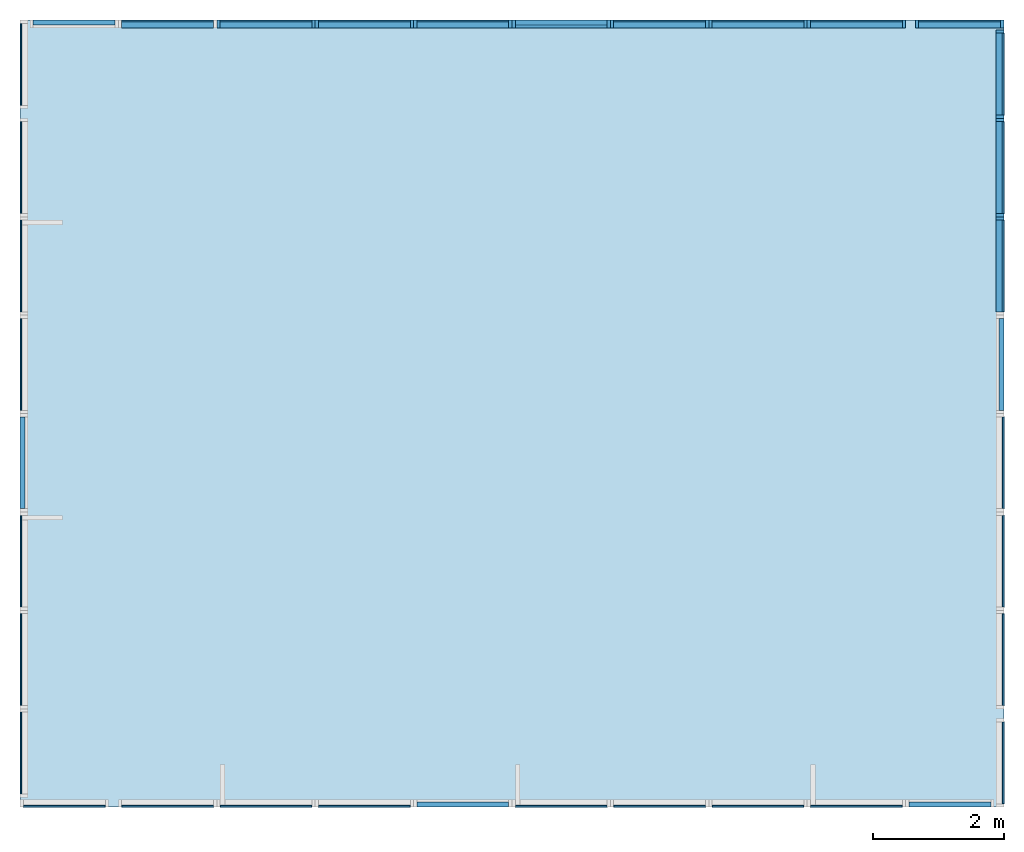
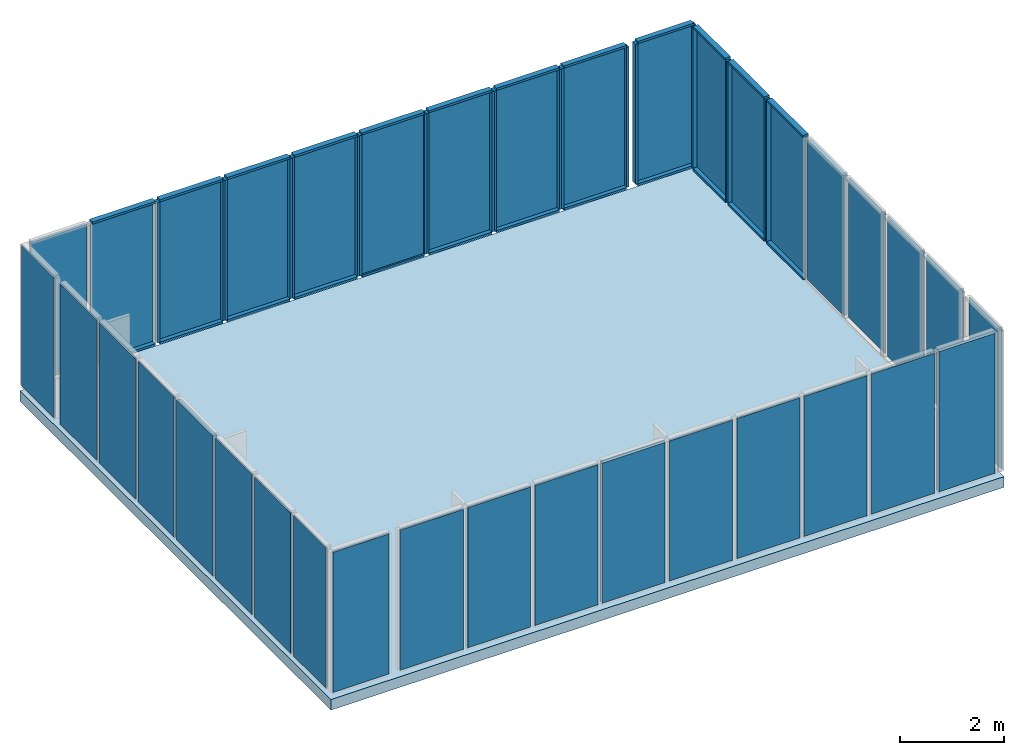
# One storey, part 2 of 2: 45 members, 36 plates, 1 slab.
"""IFC4 building model written with IfcOpenShell, lengths in metres."""

from ifc_helpers import new_model, si_unit, frame, origin_with_axes, place, context, subcontext, project, spatial, indexed_curve, outline, extrude, material, element, save


model = new_model("IFC4")

# Units and contexts
model_context = context("Model", 3, precision=1e-05, world=origin_with_axes())
body_context = subcontext(model_context, "Body", "Model", "MODEL_VIEW")
ifc_project = project(units=[si_unit("AREAUNIT", "SQUARE_METRE"), si_unit("VOLUMEUNIT", "CUBIC_METRE"), si_unit("LENGTHUNIT", "METRE")], contexts=[model_context])

# Site, building, storey
site = spatial("IfcSite", under=ifc_project, Name="Synthetic Site")
building = spatial("IfcBuilding", under=site, Name="Complex Tower")
storey_placement = place(None, frame((0.0, 0.0, 34.2), z_axis=(0.0, 0.0, 1.0), x_axis=(1.0, 0.0, 0.0)))
storey = spatial("IfcBuildingStorey", under=building, at=storey_placement, Name="L10", Elevation=34.2)

# Members
ifc_material_1 = material(Name="Aluminium")
member_placement = place(storey_placement, frame((21.0, 11.950000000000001, 0.14999999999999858), z_axis=(0.0, 0.0, 1.0), x_axis=(6.123233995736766e-17, 1.0, 0.0)))
element("IfcMember", 1, at=member_placement, inside=storey, material=ifc_material_1, Name="CT-L10-E-006-MR", PredefinedType="MULLION", context=body_context, shape_type="SweptSolid", body=[
    extrude(outline(indexed_curve([(0.0, 0.0), (0.0, 0.12), (0.05, 0.12), (0.05, 0.0), (0.0, 0.0)], self_intersect=False)), origin_with_axes(), (0.0, 0.0, 1.0), 3.3000000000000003),
])
for number, where, z_axis, x_axis, name in (
    (2, (21.0, 10.55, 0.10000000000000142), (0.0, 0.0, 1.0), (6.123233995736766e-17, 1.0, 0.0), "CT-L10-E-006-FB"),
    (3, (21.0, 10.55, 3.4499999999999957), (0.0, 0.0, 1.0), (6.123233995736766e-17, 1.0, 0.0), "CT-L10-E-006-FT"),
):
    element("IfcMember", number, at=place(storey_placement, frame(where, z_axis=z_axis, x_axis=x_axis)), inside=storey, material=ifc_material_1, Name=name, PredefinedType="MULLION", context=body_context, shape_type="SweptSolid", body=[
        extrude(outline(indexed_curve([(0.0, 0.0), (0.0, 0.12), (1.4, 0.12), (1.4, 0.0), (0.0, 0.0)], self_intersect=False)), origin_with_axes(), (0.0, 0.0, 1.0), 0.05),
    ])
for number, where, z_axis, x_axis, name in (
    (4, (21.0, 12.0, 0.14999999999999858), (0.0, 0.0, 1.0), (6.123233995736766e-17, 1.0, 0.0), "CT-L10-E-007-ML"),
    (5, (21.0, 13.450000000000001, 0.14999999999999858), (0.0, 0.0, 1.0), (6.123233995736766e-17, 1.0, 0.0), "CT-L10-E-007-MR"),
):
    element("IfcMember", number, at=place(storey_placement, frame(where, z_axis=z_axis, x_axis=x_axis)), inside=storey, material=ifc_material_1, Name=name, PredefinedType="MULLION", context=body_context, shape_type="SweptSolid", body=[
        extrude(outline(indexed_curve([(0.0, 0.0), (0.0, 0.12), (0.05, 0.12), (0.05, 0.0), (0.0, 0.0)], self_intersect=False)), origin_with_axes(), (0.0, 0.0, 1.0), 3.3000000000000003),
    ])
for number, where, z_axis, x_axis, name in (
    (6, (21.0, 12.05, 0.10000000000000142), (0.0, 0.0, 1.0), (6.123233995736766e-17, 1.0, 0.0), "CT-L10-E-007-FB"),
    (7, (21.0, 12.05, 3.4499999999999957), (0.0, 0.0, 1.0), (6.123233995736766e-17, 1.0, 0.0), "CT-L10-E-007-FT"),
):
    element("IfcMember", number, at=place(storey_placement, frame(where, z_axis=z_axis, x_axis=x_axis)), inside=storey, material=ifc_material_1, Name=name, PredefinedType="MULLION", context=body_context, shape_type="SweptSolid", body=[
        extrude(outline(indexed_curve([(0.0, 0.0), (0.0, 0.12), (1.4, 0.12), (1.4, 0.0), (0.0, 0.0)], self_intersect=False)), origin_with_axes(), (0.0, 0.0, 1.0), 0.05),
    ])
for number, where, z_axis, x_axis, name in (
    (8, (21.0, 13.5, 0.14999999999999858), (0.0, 0.0, 1.0), (6.123233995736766e-17, 1.0, 0.0), "CT-L10-E-008-ML"),
    (9, (21.0, 14.8, 0.14999999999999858), (0.0, 0.0, 1.0), (6.123233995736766e-17, 1.0, 0.0), "CT-L10-E-008-MR"),
):
    element("IfcMember", number, at=place(storey_placement, frame(where, z_axis=z_axis, x_axis=x_axis)), inside=storey, material=ifc_material_1, Name=name, PredefinedType="MULLION", context=body_context, shape_type="SweptSolid", body=[
        extrude(outline(indexed_curve([(0.0, 0.0), (0.0, 0.12), (0.05, 0.12), (0.05, 0.0), (0.0, 0.0)], self_intersect=False)), origin_with_axes(), (0.0, 0.0, 1.0), 3.3000000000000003),
    ])
for number, where, z_axis, x_axis, name in (
    (10, (21.0, 13.55, 0.10000000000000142), (0.0, 0.0, 1.0), (6.123233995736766e-17, 1.0, 0.0), "CT-L10-E-008-FB"),
    (11, (21.0, 13.55, 3.4499999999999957), (0.0, 0.0, 1.0), (6.123233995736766e-17, 1.0, 0.0), "CT-L10-E-008-FT"),
):
    element("IfcMember", number, at=place(storey_placement, frame(where, z_axis=z_axis, x_axis=x_axis)), inside=storey, material=ifc_material_1, Name=name, PredefinedType="MULLION", context=body_context, shape_type="SweptSolid", body=[
        extrude(outline(indexed_curve([(0.0, 0.0), (0.0, 0.12), (1.25, 0.12), (1.25, 0.0), (0.0, 0.0)], self_intersect=False)), origin_with_axes(), (0.0, 0.0, 1.0), 0.05),
    ])
for number, where, z_axis, x_axis, name in (
    (12, (21.0, 15.0, 0.14999999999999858), (0.0, 0.0, 1.0), (-1.0, 1.2246467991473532e-16, 0.0), "CT-L10-N-001-ML"),
    (13, (19.7, 15.0, 0.14999999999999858), (0.0, 0.0, 1.0), (-1.0, 1.2246467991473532e-16, 0.0), "CT-L10-N-001-MR"),
):
    element("IfcMember", number, at=place(storey_placement, frame(where, z_axis=z_axis, x_axis=x_axis)), inside=storey, material=ifc_material_1, Name=name, PredefinedType="MULLION", context=body_context, shape_type="SweptSolid", body=[
        extrude(outline(indexed_curve([(0.0, 0.0), (0.0, 0.12), (0.05, 0.12), (0.05, 0.0), (0.0, 0.0)], self_intersect=False)), origin_with_axes(), (0.0, 0.0, 1.0), 3.3000000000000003),
    ])
for number, where, z_axis, x_axis, name in (
    (14, (20.95, 15.0, 0.10000000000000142), (0.0, 0.0, 1.0), (-1.0, 1.2246467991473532e-16, 0.0), "CT-L10-N-001-FB"),
    (15, (20.95, 15.0, 3.4499999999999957), (0.0, 0.0, 1.0), (-1.0, 1.2246467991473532e-16, 0.0), "CT-L10-N-001-FT"),
):
    element("IfcMember", number, at=place(storey_placement, frame(where, z_axis=z_axis, x_axis=x_axis)), inside=storey, material=ifc_material_1, Name=name, PredefinedType="MULLION", context=body_context, shape_type="SweptSolid", body=[
        extrude(outline(indexed_curve([(0.0, 0.0), (0.0, 0.12), (1.25, 0.12), (1.25, 0.0), (0.0, 0.0)], self_intersect=False)), origin_with_axes(), (0.0, 0.0, 1.0), 0.05),
    ])
for number, where, z_axis, x_axis, name in (
    (16, (19.5, 15.0, 0.14999999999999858), (0.0, 0.0, 1.0), (-1.0, 1.2246467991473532e-16, 0.0), "CT-L10-N-002-ML"),
    (17, (18.05, 15.0, 0.14999999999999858), (0.0, 0.0, 1.0), (-1.0, 1.2246467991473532e-16, 0.0), "CT-L10-N-002-MR"),
):
    element("IfcMember", number, at=place(storey_placement, frame(where, z_axis=z_axis, x_axis=x_axis)), inside=storey, material=ifc_material_1, Name=name, PredefinedType="MULLION", context=body_context, shape_type="SweptSolid", body=[
        extrude(outline(indexed_curve([(0.0, 0.0), (0.0, 0.12), (0.05, 0.12), (0.05, 0.0), (0.0, 0.0)], self_intersect=False)), origin_with_axes(), (0.0, 0.0, 1.0), 3.3000000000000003),
    ])
for number, where, z_axis, x_axis, name in (
    (18, (19.45, 15.0, 0.10000000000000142), (0.0, 0.0, 1.0), (-1.0, 1.2246467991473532e-16, 0.0), "CT-L10-N-002-FB"),
    (19, (19.45, 15.0, 3.4499999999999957), (0.0, 0.0, 1.0), (-1.0, 1.2246467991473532e-16, 0.0), "CT-L10-N-002-FT"),
):
    element("IfcMember", number, at=place(storey_placement, frame(where, z_axis=z_axis, x_axis=x_axis)), inside=storey, material=ifc_material_1, Name=name, PredefinedType="MULLION", context=body_context, shape_type="SweptSolid", body=[
        extrude(outline(indexed_curve([(0.0, 0.0), (0.0, 0.12), (1.4, 0.12), (1.4, 0.0), (0.0, 0.0)], self_intersect=False)), origin_with_axes(), (0.0, 0.0, 1.0), 0.05),
    ])
for number, where, z_axis, x_axis, name in (
    (20, (18.0, 15.0, 0.14999999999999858), (0.0, 0.0, 1.0), (-1.0, 1.2246467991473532e-16, 0.0), "CT-L10-N-003-ML"),
    (21, (16.55, 15.0, 0.14999999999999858), (0.0, 0.0, 1.0), (-1.0, 1.2246467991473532e-16, 0.0), "CT-L10-N-003-MR"),
):
    element("IfcMember", number, at=place(storey_placement, frame(where, z_axis=z_axis, x_axis=x_axis)), inside=storey, material=ifc_material_1, Name=name, PredefinedType="MULLION", context=body_context, shape_type="SweptSolid", body=[
        extrude(outline(indexed_curve([(0.0, 0.0), (0.0, 0.12), (0.05, 0.12), (0.05, 0.0), (0.0, 0.0)], self_intersect=False)), origin_with_axes(), (0.0, 0.0, 1.0), 3.3000000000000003),
    ])
for number, where, z_axis, x_axis, name in (
    (22, (17.95, 15.0, 0.10000000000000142), (0.0, 0.0, 1.0), (-1.0, 1.2246467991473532e-16, 0.0), "CT-L10-N-003-FB"),
    (23, (17.95, 15.0, 3.4499999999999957), (0.0, 0.0, 1.0), (-1.0, 1.2246467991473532e-16, 0.0), "CT-L10-N-003-FT"),
):
    element("IfcMember", number, at=place(storey_placement, frame(where, z_axis=z_axis, x_axis=x_axis)), inside=storey, material=ifc_material_1, Name=name, PredefinedType="MULLION", context=body_context, shape_type="SweptSolid", body=[
        extrude(outline(indexed_curve([(0.0, 0.0), (0.0, 0.12), (1.4, 0.12), (1.4, 0.0), (0.0, 0.0)], self_intersect=False)), origin_with_axes(), (0.0, 0.0, 1.0), 0.05),
    ])
for number, where, z_axis, x_axis, name in (
    (24, (16.5, 15.0, 0.14999999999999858), (0.0, 0.0, 1.0), (-1.0, 1.2246467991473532e-16, 0.0), "CT-L10-N-004-ML"),
    (25, (15.049999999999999, 15.0, 0.14999999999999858), (0.0, 0.0, 1.0), (-1.0, 1.2246467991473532e-16, 0.0), "CT-L10-N-004-MR"),
):
    element("IfcMember", number, at=place(storey_placement, frame(where, z_axis=z_axis, x_axis=x_axis)), inside=storey, material=ifc_material_1, Name=name, PredefinedType="MULLION", context=body_context, shape_type="SweptSolid", body=[
        extrude(outline(indexed_curve([(0.0, 0.0), (0.0, 0.12), (0.05, 0.12), (0.05, 0.0), (0.0, 0.0)], self_intersect=False)), origin_with_axes(), (0.0, 0.0, 1.0), 3.3000000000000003),
    ])
for number, where, z_axis, x_axis, name in (
    (26, (16.45, 15.0, 0.10000000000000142), (0.0, 0.0, 1.0), (-1.0, 1.2246467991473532e-16, 0.0), "CT-L10-N-004-FB"),
    (27, (16.45, 15.0, 3.4499999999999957), (0.0, 0.0, 1.0), (-1.0, 1.2246467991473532e-16, 0.0), "CT-L10-N-004-FT"),
):
    element("IfcMember", number, at=place(storey_placement, frame(where, z_axis=z_axis, x_axis=x_axis)), inside=storey, material=ifc_material_1, Name=name, PredefinedType="MULLION", context=body_context, shape_type="SweptSolid", body=[
        extrude(outline(indexed_curve([(0.0, 0.0), (0.0, 0.12), (1.4, 0.12), (1.4, 0.0), (0.0, 0.0)], self_intersect=False)), origin_with_axes(), (0.0, 0.0, 1.0), 0.05),
    ])
for number, where, z_axis, x_axis, name in (
    (28, (15.0, 15.0, 0.14999999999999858), (0.0, 0.0, 1.0), (-1.0, 1.2246467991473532e-16, 0.0), "CT-L10-N-005-ML"),
    (29, (13.549999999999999, 15.0, 0.14999999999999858), (0.0, 0.0, 1.0), (-1.0, 1.2246467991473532e-16, 0.0), "CT-L10-N-005-MR"),
):
    element("IfcMember", number, at=place(storey_placement, frame(where, z_axis=z_axis, x_axis=x_axis)), inside=storey, material=ifc_material_1, Name=name, PredefinedType="MULLION", context=body_context, shape_type="SweptSolid", body=[
        extrude(outline(indexed_curve([(0.0, 0.0), (0.0, 0.12), (0.05, 0.12), (0.05, 0.0), (0.0, 0.0)], self_intersect=False)), origin_with_axes(), (0.0, 0.0, 1.0), 3.3000000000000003),
    ])
for number, where, z_axis, x_axis, name in (
    (30, (14.95, 15.0, 0.10000000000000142), (0.0, 0.0, 1.0), (-1.0, 1.2246467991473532e-16, 0.0), "CT-L10-N-005-FB"),
    (31, (14.95, 15.0, 3.4499999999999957), (0.0, 0.0, 1.0), (-1.0, 1.2246467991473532e-16, 0.0), "CT-L10-N-005-FT"),
):
    element("IfcMember", number, at=place(storey_placement, frame(where, z_axis=z_axis, x_axis=x_axis)), inside=storey, material=ifc_material_1, Name=name, PredefinedType="MULLION", context=body_context, shape_type="SweptSolid", body=[
        extrude(outline(indexed_curve([(0.0, 0.0), (0.0, 0.12), (1.4, 0.12), (1.4, 0.0), (0.0, 0.0)], self_intersect=False)), origin_with_axes(), (0.0, 0.0, 1.0), 0.05),
    ])
for number, where, z_axis, x_axis, name in (
    (32, (13.5, 15.000000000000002, 0.14999999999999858), (0.0, 0.0, 1.0), (-1.0, 1.2246467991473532e-16, 0.0), "CT-L10-N-006-ML"),
    (33, (12.049999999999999, 15.000000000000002, 0.14999999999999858), (0.0, 0.0, 1.0), (-1.0, 1.2246467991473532e-16, 0.0), "CT-L10-N-006-MR"),
):
    element("IfcMember", number, at=place(storey_placement, frame(where, z_axis=z_axis, x_axis=x_axis)), inside=storey, material=ifc_material_1, Name=name, PredefinedType="MULLION", context=body_context, shape_type="SweptSolid", body=[
        extrude(outline(indexed_curve([(0.0, 0.0), (0.0, 0.12), (0.05, 0.12), (0.05, 0.0), (0.0, 0.0)], self_intersect=False)), origin_with_axes(), (0.0, 0.0, 1.0), 3.3000000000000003),
    ])
for number, where, z_axis, x_axis, name in (
    (34, (13.45, 15.000000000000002, 0.10000000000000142), (0.0, 0.0, 1.0), (-1.0, 1.2246467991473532e-16, 0.0), "CT-L10-N-006-FB"),
    (35, (13.45, 15.000000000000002, 3.4499999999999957), (0.0, 0.0, 1.0), (-1.0, 1.2246467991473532e-16, 0.0), "CT-L10-N-006-FT"),
):
    element("IfcMember", number, at=place(storey_placement, frame(where, z_axis=z_axis, x_axis=x_axis)), inside=storey, material=ifc_material_1, Name=name, PredefinedType="MULLION", context=body_context, shape_type="SweptSolid", body=[
        extrude(outline(indexed_curve([(0.0, 0.0), (0.0, 0.12), (1.4, 0.12), (1.4, 0.0), (0.0, 0.0)], self_intersect=False)), origin_with_axes(), (0.0, 0.0, 1.0), 0.05),
    ])
for number, where, z_axis, x_axis, name in (
    (36, (12.0, 15.000000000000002, 0.14999999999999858), (0.0, 0.0, 1.0), (-1.0, 1.2246467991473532e-16, 0.0), "CT-L10-N-007-ML"),
    (37, (10.549999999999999, 15.000000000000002, 0.14999999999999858), (0.0, 0.0, 1.0), (-1.0, 1.2246467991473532e-16, 0.0), "CT-L10-N-007-MR"),
):
    element("IfcMember", number, at=place(storey_placement, frame(where, z_axis=z_axis, x_axis=x_axis)), inside=storey, material=ifc_material_1, Name=name, PredefinedType="MULLION", context=body_context, shape_type="SweptSolid", body=[
        extrude(outline(indexed_curve([(0.0, 0.0), (0.0, 0.12), (0.05, 0.12), (0.05, 0.0), (0.0, 0.0)], self_intersect=False)), origin_with_axes(), (0.0, 0.0, 1.0), 3.3000000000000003),
    ])
for number, where, z_axis, x_axis, name in (
    (38, (11.95, 15.000000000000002, 0.10000000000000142), (0.0, 0.0, 1.0), (-1.0, 1.2246467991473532e-16, 0.0), "CT-L10-N-007-FB"),
    (39, (11.95, 15.000000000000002, 3.4499999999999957), (0.0, 0.0, 1.0), (-1.0, 1.2246467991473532e-16, 0.0), "CT-L10-N-007-FT"),
):
    element("IfcMember", number, at=place(storey_placement, frame(where, z_axis=z_axis, x_axis=x_axis)), inside=storey, material=ifc_material_1, Name=name, PredefinedType="MULLION", context=body_context, shape_type="SweptSolid", body=[
        extrude(outline(indexed_curve([(0.0, 0.0), (0.0, 0.12), (1.4, 0.12), (1.4, 0.0), (0.0, 0.0)], self_intersect=False)), origin_with_axes(), (0.0, 0.0, 1.0), 0.05),
    ])
for number, where, z_axis, x_axis, name in (
    (40, (10.5, 15.000000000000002, 0.14999999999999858), (0.0, 0.0, 1.0), (-1.0, 1.2246467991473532e-16, 0.0), "CT-L10-N-008-ML"),
    (41, (9.049999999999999, 15.000000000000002, 0.14999999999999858), (0.0, 0.0, 1.0), (-1.0, 1.2246467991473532e-16, 0.0), "CT-L10-N-008-MR"),
):
    element("IfcMember", number, at=place(storey_placement, frame(where, z_axis=z_axis, x_axis=x_axis)), inside=storey, material=ifc_material_1, Name=name, PredefinedType="MULLION", context=body_context, shape_type="SweptSolid", body=[
        extrude(outline(indexed_curve([(0.0, 0.0), (0.0, 0.12), (0.05, 0.12), (0.05, 0.0), (0.0, 0.0)], self_intersect=False)), origin_with_axes(), (0.0, 0.0, 1.0), 3.3000000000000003),
    ])
for number, where, z_axis, x_axis, name in (
    (42, (10.45, 15.000000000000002, 0.10000000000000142), (0.0, 0.0, 1.0), (-1.0, 1.2246467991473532e-16, 0.0), "CT-L10-N-008-FB"),
    (43, (10.45, 15.000000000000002, 3.4499999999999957), (0.0, 0.0, 1.0), (-1.0, 1.2246467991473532e-16, 0.0), "CT-L10-N-008-FT"),
    (44, (8.95, 15.000000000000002, 0.10000000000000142), (0.0, 0.0, 1.0), (-1.0, 1.2246467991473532e-16, 0.0), "CT-L10-N-009-FB"),
    (45, (8.95, 15.000000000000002, 3.4499999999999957), (0.0, 0.0, 1.0), (-1.0, 1.2246467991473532e-16, 0.0), "CT-L10-N-009-FT"),
):
    element("IfcMember", number, at=place(storey_placement, frame(where, z_axis=z_axis, x_axis=x_axis)), inside=storey, material=ifc_material_1, Name=name, PredefinedType="MULLION", context=body_context, shape_type="SweptSolid", body=[
        extrude(outline(indexed_curve([(0.0, 0.0), (0.0, 0.12), (1.4, 0.12), (1.4, 0.0), (0.0, 0.0)], self_intersect=False)), origin_with_axes(), (0.0, 0.0, 1.0), 0.05),
    ])

# Plates
ifc_material_2 = material(Name="Glass")
plate_1_placement = place(storey_placement, frame((6.05, 3.0, 0.14999999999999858), z_axis=(0.0, 0.0, 1.0), x_axis=(1.0, 0.0, 0.0)))
element("IfcPlate", 46, at=plate_1_placement, inside=storey, material=ifc_material_2, Name="CT-L10-S-001", PredefinedType="CURTAIN_PANEL", context=body_context, shape_type="SweptSolid", body=[
    extrude(outline(indexed_curve([(0.0, 0.0), (0.0, 0.028), (1.25, 0.028), (1.25, 0.0), (0.0, 0.0)], self_intersect=False)), origin_with_axes(), (0.0, 0.0, 1.0), 3.3000000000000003),
])
for number, where, z_axis, x_axis, name in (
    (47, (7.55, 3.0, 0.14999999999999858), (0.0, 0.0, 1.0), (1.0, 0.0, 0.0), "CT-L10-S-002"),
    (48, (9.05, 3.0, 0.14999999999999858), (0.0, 0.0, 1.0), (1.0, 0.0, 0.0), "CT-L10-S-003"),
    (49, (10.55, 3.0, 0.14999999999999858), (0.0, 0.0, 1.0), (1.0, 0.0, 0.0), "CT-L10-S-004"),
):
    element("IfcPlate", number, at=place(storey_placement, frame(where, z_axis=z_axis, x_axis=x_axis)), inside=storey, material=ifc_material_2, Name=name, PredefinedType="CURTAIN_PANEL", context=body_context, shape_type="SweptSolid", body=[
        extrude(outline(indexed_curve([(0.0, 0.0), (0.0, 0.028), (1.4, 0.028), (1.4, 0.0), (0.0, 0.0)], self_intersect=False)), origin_with_axes(), (0.0, 0.0, 1.0), 3.3000000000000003),
    ])
plate_2_placement = place(storey_placement, frame((12.05, 3.0, 0.14999999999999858), z_axis=(0.0, 0.0, 1.0), x_axis=(1.0, 0.0, 0.0)))
element("IfcPlate", 50, at=plate_2_placement, inside=storey, material=ifc_material_1, Name="CT-L10-S-005", PredefinedType="SHEET", context=body_context, shape_type="SweptSolid", body=[
    extrude(outline(indexed_curve([(0.0, 0.0), (0.0, 0.08), (1.4, 0.08), (1.4, 0.0), (0.0, 0.0)], self_intersect=False)), origin_with_axes(), (0.0, 0.0, 1.0), 3.3000000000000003),
])
for number, where, z_axis, x_axis, name in (
    (51, (13.55, 3.0, 0.14999999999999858), (0.0, 0.0, 1.0), (1.0, 0.0, 0.0), "CT-L10-S-006"),
    (52, (15.05, 3.0, 0.14999999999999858), (0.0, 0.0, 1.0), (1.0, 0.0, 0.0), "CT-L10-S-007"),
    (53, (16.55, 3.0, 0.14999999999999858), (0.0, 0.0, 1.0), (1.0, 0.0, 0.0), "CT-L10-S-008"),
    (54, (18.05, 3.0, 0.14999999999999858), (0.0, 0.0, 1.0), (1.0, 0.0, 0.0), "CT-L10-S-009"),
):
    element("IfcPlate", number, at=place(storey_placement, frame(where, z_axis=z_axis, x_axis=x_axis)), inside=storey, material=ifc_material_2, Name=name, PredefinedType="CURTAIN_PANEL", context=body_context, shape_type="SweptSolid", body=[
        extrude(outline(indexed_curve([(0.0, 0.0), (0.0, 0.028), (1.4, 0.028), (1.4, 0.0), (0.0, 0.0)], self_intersect=False)), origin_with_axes(), (0.0, 0.0, 1.0), 3.3000000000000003),
    ])
plate_3_placement = place(storey_placement, frame((19.55, 3.0, 0.14999999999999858), z_axis=(0.0, 0.0, 1.0), x_axis=(1.0, 0.0, 0.0)))
element("IfcPlate", 55, at=plate_3_placement, inside=storey, material=ifc_material_1, Name="CT-L10-S-010", PredefinedType="SHEET", context=body_context, shape_type="SweptSolid", body=[
    extrude(outline(indexed_curve([(0.0, 0.0), (0.0, 0.08), (1.25, 0.08), (1.25, 0.0), (0.0, 0.0)], self_intersect=False)), origin_with_axes(), (0.0, 0.0, 1.0), 3.3000000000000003),
])
plate_4_placement = place(storey_placement, frame((21.0, 3.05, 0.14999999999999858), z_axis=(0.0, 0.0, 1.0), x_axis=(6.123233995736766e-17, 1.0, 0.0)))
element("IfcPlate", 56, at=plate_4_placement, inside=storey, material=ifc_material_2, Name="CT-L10-E-001", PredefinedType="CURTAIN_PANEL", context=body_context, shape_type="SweptSolid", body=[
    extrude(outline(indexed_curve([(0.0, 0.0), (0.0, 0.028), (1.25, 0.028), (1.25, 0.0), (0.0, 0.0)], self_intersect=False)), origin_with_axes(), (0.0, 0.0, 1.0), 3.3000000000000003),
])
for number, where, z_axis, x_axis, name in (
    (57, (21.0, 4.55, 0.14999999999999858), (0.0, 0.0, 1.0), (6.123233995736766e-17, 1.0, 0.0), "CT-L10-E-002"),
    (58, (21.0, 6.05, 0.14999999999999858), (0.0, 0.0, 1.0), (6.123233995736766e-17, 1.0, 0.0), "CT-L10-E-003"),
    (59, (21.0, 7.55, 0.14999999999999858), (0.0, 0.0, 1.0), (6.123233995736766e-17, 1.0, 0.0), "CT-L10-E-004"),
):
    element("IfcPlate", number, at=place(storey_placement, frame(where, z_axis=z_axis, x_axis=x_axis)), inside=storey, material=ifc_material_2, Name=name, PredefinedType="CURTAIN_PANEL", context=body_context, shape_type="SweptSolid", body=[
        extrude(outline(indexed_curve([(0.0, 0.0), (0.0, 0.028), (1.4, 0.028), (1.4, 0.0), (0.0, 0.0)], self_intersect=False)), origin_with_axes(), (0.0, 0.0, 1.0), 3.3000000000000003),
    ])
plate_5_placement = place(storey_placement, frame((21.0, 9.05, 0.14999999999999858), z_axis=(0.0, 0.0, 1.0), x_axis=(6.123233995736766e-17, 1.0, 0.0)))
element("IfcPlate", 60, at=plate_5_placement, inside=storey, material=ifc_material_1, Name="CT-L10-E-005", PredefinedType="SHEET", context=body_context, shape_type="SweptSolid", body=[
    extrude(outline(indexed_curve([(0.0, 0.0), (0.0, 0.08), (1.4, 0.08), (1.4, 0.0), (0.0, 0.0)], self_intersect=False)), origin_with_axes(), (0.0, 0.0, 1.0), 3.3000000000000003),
])
for number, where, z_axis, x_axis, name in (
    (61, (21.0, 10.55, 0.14999999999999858), (0.0, 0.0, 1.0), (6.123233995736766e-17, 1.0, 0.0), "CT-L10-E-006"),
    (62, (21.0, 12.05, 0.14999999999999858), (0.0, 0.0, 1.0), (6.123233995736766e-17, 1.0, 0.0), "CT-L10-E-007"),
):
    element("IfcPlate", number, at=place(storey_placement, frame(where, z_axis=z_axis, x_axis=x_axis)), inside=storey, material=ifc_material_2, Name=name, PredefinedType="CURTAIN_PANEL", context=body_context, shape_type="SweptSolid", body=[
        extrude(outline(indexed_curve([(0.0, 0.0), (0.0, 0.028), (1.4, 0.028), (1.4, 0.0), (0.0, 0.0)], self_intersect=False)), origin_with_axes(), (0.0, 0.0, 1.0), 3.3000000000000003),
    ])
for number, where, z_axis, x_axis, name in (
    (63, (21.0, 13.55, 0.14999999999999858), (0.0, 0.0, 1.0), (6.123233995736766e-17, 1.0, 0.0), "CT-L10-E-008"),
    (64, (20.95, 15.0, 0.14999999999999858), (0.0, 0.0, 1.0), (-1.0, 1.2246467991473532e-16, 0.0), "CT-L10-N-001"),
):
    element("IfcPlate", number, at=place(storey_placement, frame(where, z_axis=z_axis, x_axis=x_axis)), inside=storey, material=ifc_material_2, Name=name, PredefinedType="CURTAIN_PANEL", context=body_context, shape_type="SweptSolid", body=[
        extrude(outline(indexed_curve([(0.0, 0.0), (0.0, 0.028), (1.25, 0.028), (1.25, 0.0), (0.0, 0.0)], self_intersect=False)), origin_with_axes(), (0.0, 0.0, 1.0), 3.3000000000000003),
    ])
for number, where, z_axis, x_axis, name in (
    (65, (19.45, 15.0, 0.14999999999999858), (0.0, 0.0, 1.0), (-1.0, 1.2246467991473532e-16, 0.0), "CT-L10-N-002"),
    (66, (17.95, 15.0, 0.14999999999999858), (0.0, 0.0, 1.0), (-1.0, 1.2246467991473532e-16, 0.0), "CT-L10-N-003"),
    (67, (16.45, 15.0, 0.14999999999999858), (0.0, 0.0, 1.0), (-1.0, 1.2246467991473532e-16, 0.0), "CT-L10-N-004"),
):
    element("IfcPlate", number, at=place(storey_placement, frame(where, z_axis=z_axis, x_axis=x_axis)), inside=storey, material=ifc_material_2, Name=name, PredefinedType="CURTAIN_PANEL", context=body_context, shape_type="SweptSolid", body=[
        extrude(outline(indexed_curve([(0.0, 0.0), (0.0, 0.028), (1.4, 0.028), (1.4, 0.0), (0.0, 0.0)], self_intersect=False)), origin_with_axes(), (0.0, 0.0, 1.0), 3.3000000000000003),
    ])
plate_6_placement = place(storey_placement, frame((14.95, 15.0, 0.14999999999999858), z_axis=(0.0, 0.0, 1.0), x_axis=(-1.0, 1.2246467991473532e-16, 0.0)))
element("IfcPlate", 68, at=plate_6_placement, inside=storey, material=ifc_material_1, Name="CT-L10-N-005", PredefinedType="SHEET", context=body_context, shape_type="SweptSolid", body=[
    extrude(outline(indexed_curve([(0.0, 0.0), (0.0, 0.08), (1.4, 0.08), (1.4, 0.0), (0.0, 0.0)], self_intersect=False)), origin_with_axes(), (0.0, 0.0, 1.0), 3.3000000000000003),
])
for number, where, z_axis, x_axis, name in (
    (69, (13.45, 15.000000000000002, 0.14999999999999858), (0.0, 0.0, 1.0), (-1.0, 1.2246467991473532e-16, 0.0), "CT-L10-N-006"),
    (70, (11.95, 15.000000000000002, 0.14999999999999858), (0.0, 0.0, 1.0), (-1.0, 1.2246467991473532e-16, 0.0), "CT-L10-N-007"),
    (71, (10.45, 15.000000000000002, 0.14999999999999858), (0.0, 0.0, 1.0), (-1.0, 1.2246467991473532e-16, 0.0), "CT-L10-N-008"),
    (72, (8.95, 15.000000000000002, 0.14999999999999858), (0.0, 0.0, 1.0), (-1.0, 1.2246467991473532e-16, 0.0), "CT-L10-N-009"),
):
    element("IfcPlate", number, at=place(storey_placement, frame(where, z_axis=z_axis, x_axis=x_axis)), inside=storey, material=ifc_material_2, Name=name, PredefinedType="CURTAIN_PANEL", context=body_context, shape_type="SweptSolid", body=[
        extrude(outline(indexed_curve([(0.0, 0.0), (0.0, 0.028), (1.4, 0.028), (1.4, 0.0), (0.0, 0.0)], self_intersect=False)), origin_with_axes(), (0.0, 0.0, 1.0), 3.3000000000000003),
    ])
plate_7_placement = place(storey_placement, frame((7.449999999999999, 15.000000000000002, 0.14999999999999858), z_axis=(0.0, 0.0, 1.0), x_axis=(-1.0, 1.2246467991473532e-16, 0.0)))
element("IfcPlate", 73, at=plate_7_placement, inside=storey, material=ifc_material_1, Name="CT-L10-N-010", PredefinedType="SHEET", context=body_context, shape_type="SweptSolid", body=[
    extrude(outline(indexed_curve([(0.0, 0.0), (0.0, 0.08), (1.25, 0.08), (1.25, 0.0), (0.0, 0.0)], self_intersect=False)), origin_with_axes(), (0.0, 0.0, 1.0), 3.3000000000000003),
])
plate_8_placement = place(storey_placement, frame((6.0, 14.95, 0.14999999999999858), z_axis=(0.0, 0.0, 1.0), x_axis=(-1.8369701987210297e-16, -1.0, 0.0)))
element("IfcPlate", 74, at=plate_8_placement, inside=storey, material=ifc_material_2, Name="CT-L10-W-001", PredefinedType="CURTAIN_PANEL", context=body_context, shape_type="SweptSolid", body=[
    extrude(outline(indexed_curve([(0.0, 0.0), (0.0, 0.028), (1.25, 0.028), (1.25, 0.0), (0.0, 0.0)], self_intersect=False)), origin_with_axes(), (0.0, 0.0, 1.0), 3.3000000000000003),
])
for number, where, z_axis, x_axis, name in (
    (75, (6.0, 13.45, 0.14999999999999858), (0.0, 0.0, 1.0), (-1.8369701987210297e-16, -1.0, 0.0), "CT-L10-W-002"),
    (76, (5.999999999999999, 11.95, 0.14999999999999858), (0.0, 0.0, 1.0), (-1.8369701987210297e-16, -1.0, 0.0), "CT-L10-W-003"),
    (77, (5.999999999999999, 10.45, 0.14999999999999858), (0.0, 0.0, 1.0), (-1.8369701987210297e-16, -1.0, 0.0), "CT-L10-W-004"),
):
    element("IfcPlate", number, at=place(storey_placement, frame(where, z_axis=z_axis, x_axis=x_axis)), inside=storey, material=ifc_material_2, Name=name, PredefinedType="CURTAIN_PANEL", context=body_context, shape_type="SweptSolid", body=[
        extrude(outline(indexed_curve([(0.0, 0.0), (0.0, 0.028), (1.4, 0.028), (1.4, 0.0), (0.0, 0.0)], self_intersect=False)), origin_with_axes(), (0.0, 0.0, 1.0), 3.3000000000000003),
    ])
plate_9_placement = place(storey_placement, frame((5.999999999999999, 8.95, 0.14999999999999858), z_axis=(0.0, 0.0, 1.0), x_axis=(-1.8369701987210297e-16, -1.0, 0.0)))
element("IfcPlate", 78, at=plate_9_placement, inside=storey, material=ifc_material_1, Name="CT-L10-W-005", PredefinedType="SHEET", context=body_context, shape_type="SweptSolid", body=[
    extrude(outline(indexed_curve([(0.0, 0.0), (0.0, 0.08), (1.4, 0.08), (1.4, 0.0), (0.0, 0.0)], self_intersect=False)), origin_with_axes(), (0.0, 0.0, 1.0), 3.3000000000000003),
])
for number, where, z_axis, x_axis, name in (
    (79, (5.999999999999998, 7.45, 0.14999999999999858), (0.0, 0.0, 1.0), (-1.8369701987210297e-16, -1.0, 0.0), "CT-L10-W-006"),
    (80, (5.999999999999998, 5.949999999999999, 0.14999999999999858), (0.0, 0.0, 1.0), (-1.8369701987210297e-16, -1.0, 0.0), "CT-L10-W-007"),
):
    element("IfcPlate", number, at=place(storey_placement, frame(where, z_axis=z_axis, x_axis=x_axis)), inside=storey, material=ifc_material_2, Name=name, PredefinedType="CURTAIN_PANEL", context=body_context, shape_type="SweptSolid", body=[
        extrude(outline(indexed_curve([(0.0, 0.0), (0.0, 0.028), (1.4, 0.028), (1.4, 0.0), (0.0, 0.0)], self_intersect=False)), origin_with_axes(), (0.0, 0.0, 1.0), 3.3000000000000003),
    ])
plate_10_placement = place(storey_placement, frame((5.999999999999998, 4.449999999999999, 0.14999999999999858), z_axis=(0.0, 0.0, 1.0), x_axis=(-1.8369701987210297e-16, -1.0, 0.0)))
element("IfcPlate", 81, at=plate_10_placement, inside=storey, material=ifc_material_2, Name="CT-L10-W-008", PredefinedType="CURTAIN_PANEL", context=body_context, shape_type="SweptSolid", body=[
    extrude(outline(indexed_curve([(0.0, 0.0), (0.0, 0.028), (1.25, 0.028), (1.25, 0.0), (0.0, 0.0)], self_intersect=False)), origin_with_axes(), (0.0, 0.0, 1.0), 3.3000000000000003),
])

# Slab
ifc_material_3 = material(Name="Concrete")
slab_placement = place(storey_placement, frame((6.0, 3.0, -0.25), z_axis=(0.0, 0.0, 1.0), x_axis=(1.0, 0.0, 0.0)))
element("IfcSlab", 82, at=slab_placement, inside=storey, material=ifc_material_3, Name="CT-SLAB-10", PredefinedType="FLOOR", context=body_context, shape_type="SweptSolid", body=[
    extrude(outline(indexed_curve([(0.0, 0.0), (0.0, 12.0), (15.0, 12.0), (15.0, 0.0), (0.0, 0.0)], self_intersect=False)), origin_with_axes(), (0.0, 0.0, 1.0), 0.25),
])

save(model, "model.ifc")
